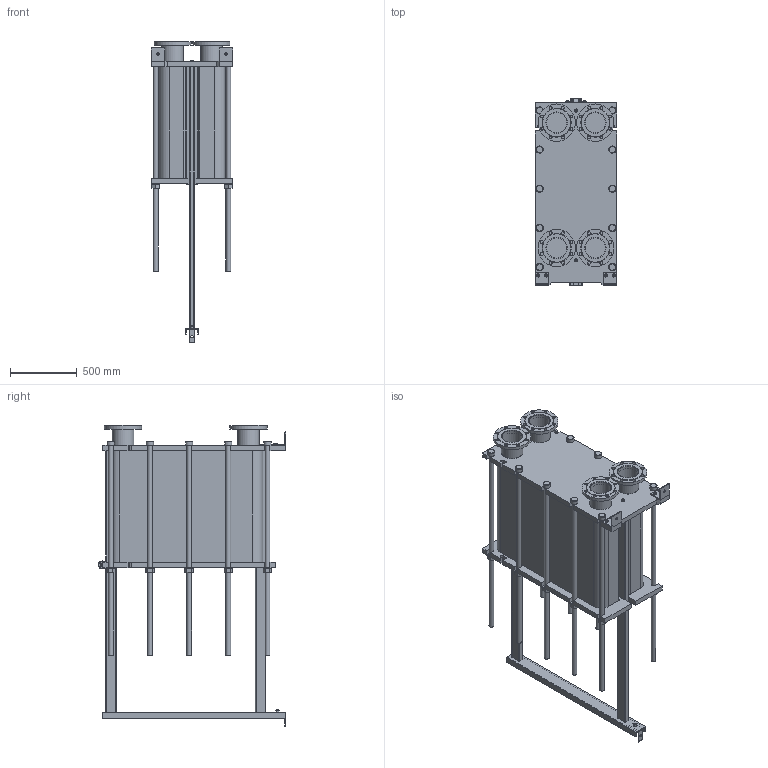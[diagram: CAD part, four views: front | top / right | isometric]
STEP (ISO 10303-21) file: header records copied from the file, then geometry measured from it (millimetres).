
FILE_DESCRIPTION(/* description */ (''),/* implementation_level */ '2;1');
FILE_NAME(/* name */ 'C:\Users\zhuro\Desktop\ENCO\TO\ЭН-041\ЭН-0,5-041-243-1.stp',/* time_stamp */ '2022-06-06T11:09:44+03:00',/* author */ ('zhuro'),/* organization */ (''),/* preprocessor_version */ 'ST-DEVELOPER v18.1',/* originating_system */ 'Autodesk Inventor 2022',/* authorisation */ '');
FILE_SCHEMA (('AUTOMOTIVE_DESIGN { 1 0 10303 214 3 1 1 }'));
Length unit declared in the file: millimetre
Products named in the file (1): ЭН-0,5-041-243-1
Bounding box: 610 x 1406.5 x 2262.5 mm (x, y, z)
Volume: 562041420.5 mm3; surface area: 12177543.9 mm2
Topology: 52 solids, 52 shells, 711 faces, 1696 edges, 1094 vertices
Faces by surface type: plane 487, cylinder 177, cone 41, torus 6
Full cylindrical faces by diameter (mm): 8 x4, 10 x2, 16 x8, 18 x3, 22 x32, 36 x24, 50 x1, 54 x10, 60 x12, 151 x4, 161 x8, 280 x4
Entity records: 22667 total; most frequent: CARTESIAN_POINT 5230, DIRECTION 3644, ORIENTED_EDGE 3392, EDGE_CURVE 1696, AXIS2_PLACEMENT_3D 1272, LINE 1100, VECTOR 1100, VERTEX_POINT 1094
